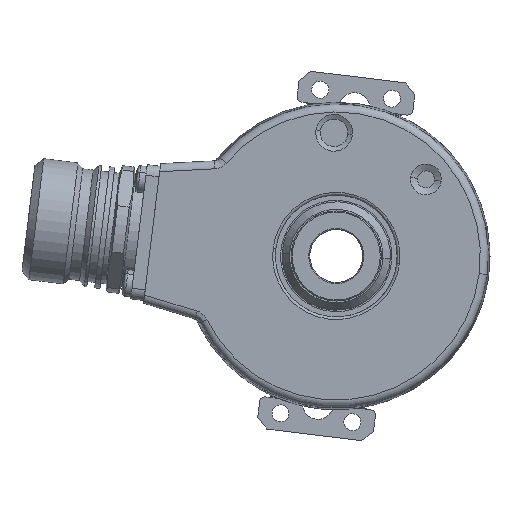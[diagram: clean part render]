
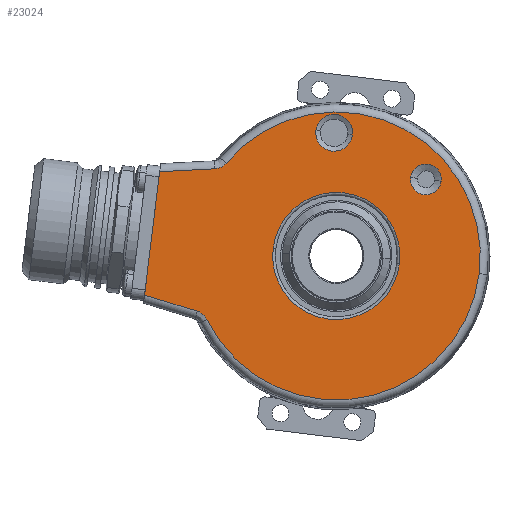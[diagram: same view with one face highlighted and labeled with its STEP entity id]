
A CAD part, left-side view. The second image highlights one B-rep face of the part: STEP entity #23024.
In plain terms, the highlighted planar face has unit normal (-1, 0, 0).
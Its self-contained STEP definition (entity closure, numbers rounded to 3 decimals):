
#1481 = CARTESIAN_POINT ( 'NONE',  ( -19., 11.911, 1.462 ) ) ;
#1482 = CARTESIAN_POINT ( 'NONE',  ( -19., -11.911, -1.462 ) ) ;
#1483 = DIRECTION ( 'NONE',  ( 0., -0.993, -0.122 ) ) ;
#1484 = DIRECTION ( 'NONE',  ( 1., 0., 0. ) ) ;
#1485 = CARTESIAN_POINT ( 'NONE',  ( -19., 0., 0. ) ) ;
#1486 = AXIS2_PLACEMENT_3D ( 'NONE', #1485, #1484, #1483 ) ;
#1487 = CIRCLE ( 'NONE', #1486, 12. ) ;
#1764 = CARTESIAN_POINT ( 'NONE',  ( -19., -26.97, -3.312 ) ) ;
#1765 = CARTESIAN_POINT ( 'NONE',  ( -19., 20.777, 17.512 ) ) ;
#2113 = CARTESIAN_POINT ( 'NONE',  ( -19., 33.31, 15.905 ) ) ;
#3572 = DIRECTION ( 'NONE',  ( 0., -0.993, -0.122 ) ) ;
#3573 = DIRECTION ( 'NONE',  ( 1., 0., 0. ) ) ;
#3574 = CARTESIAN_POINT ( 'NONE',  ( -19., 0., 0. ) ) ;
#3575 = AXIS2_PLACEMENT_3D ( 'NONE', #3574, #3573, #3572 ) ;
#3576 = CIRCLE ( 'NONE', #3575, 12. ) ;
#3616 = B_SPLINE_CURVE_WITH_KNOTS ( 'NONE', 3,
 ( #3676, #3674, #3672, #3671, #3670, #3669, #3668, #3667, #3666, #3665 ),
 .UNSPECIFIED., .F., .F.,
 ( 4, 2, 2, 2, 4 ),
 ( 0., 0.001, 0.001, 0.002, 0.002 ),
 .UNSPECIFIED. ) ;
#3665 = CARTESIAN_POINT ( 'NONE',  ( -19., 20.777, 17.512 ) ) ;
#3666 = CARTESIAN_POINT ( 'NONE',  ( -19., 20.91, 17.355 ) ) ;
#3667 = CARTESIAN_POINT ( 'NONE',  ( -19., 21.056, 17.213 ) ) ;
#3668 = CARTESIAN_POINT ( 'NONE',  ( -19., 21.376, 16.962 ) ) ;
#3669 = CARTESIAN_POINT ( 'NONE',  ( -19., 21.552, 16.851 ) ) ;
#3670 = CARTESIAN_POINT ( 'NONE',  ( -19., 21.917, 16.669 ) ) ;
#3671 = CARTESIAN_POINT ( 'NONE',  ( -19., 22.108, 16.597 ) ) ;
#3672 = CARTESIAN_POINT ( 'NONE',  ( -19., 22.503, 16.493 ) ) ;
#3674 = CARTESIAN_POINT ( 'NONE',  ( -19., 22.708, 16.461 ) ) ;
#3676 = CARTESIAN_POINT ( 'NONE',  ( -19., 22.914, 16.45 ) ) ;
#4017 = CARTESIAN_POINT ( 'NONE',  ( -19., 24.396, -11.966 ) ) ;
#5166 = DIRECTION ( 'NONE',  ( 0., -0.993, -0.122 ) ) ;
#5167 = DIRECTION ( 'NONE',  ( 1., 0., 0. ) ) ;
#5168 = CARTESIAN_POINT ( 'NONE',  ( -19., -16.919, 14.45 ) ) ;
#5169 = AXIS2_PLACEMENT_3D ( 'NONE', #5168, #5167, #5166 ) ;
#5173 = CIRCLE ( 'NONE', #5169, 2.899 ) ;
#5277 = EDGE_CURVE ( 'NONE', #5279, #24778, #25936, .T. ) ;
#5279 = VERTEX_POINT ( 'NONE', #25932 ) ;
#5473 = EDGE_CURVE ( 'NONE', #5279, #5474, #26377, .T. ) ;
#5474 = VERTEX_POINT ( 'NONE', #26373 ) ;
#6341 = DIRECTION ( 'NONE',  ( 0., -0.993, -0.122 ) ) ;
#6342 = DIRECTION ( 'NONE',  ( 1., 0., 0. ) ) ;
#6343 = CARTESIAN_POINT ( 'NONE',  ( -19., 0.406, 23.246 ) ) ;
#6344 = AXIS2_PLACEMENT_3D ( 'NONE', #6343, #6342, #6341 ) ;
#6345 = CIRCLE ( 'NONE', #6344, 3.466 ) ;
#8211 = DIRECTION ( 'NONE',  ( 0., 0.999, -0.052 ) ) ;
#8212 = VECTOR ( 'NONE', #8211, 1000. ) ;
#8213 = CARTESIAN_POINT ( 'NONE',  ( -19., 33.046, 15.919 ) ) ;
#8214 = LINE ( 'NONE', #8213, #8212 ) ;
#8312 = CARTESIAN_POINT ( 'NONE',  ( -19., 22.914, 16.45 ) ) ;
#10447 = CARTESIAN_POINT ( 'NONE',  ( -19., -3.034, 22.824 ) ) ;
#10452 = DIRECTION ( 'NONE',  ( 0., -0.993, -0.122 ) ) ;
#10455 = DIRECTION ( 'NONE',  ( -1., 0., 0. ) ) ;
#10457 = CARTESIAN_POINT ( 'NONE',  ( -19., 0., 0. ) ) ;
#10459 = AXIS2_PLACEMENT_3D ( 'NONE', #10457, #10455, #10452 ) ;
#10460 = CIRCLE ( 'NONE', #10459, 27.173 ) ;
#10592 = CARTESIAN_POINT ( 'NONE',  ( -19., 3.846, 23.669 ) ) ;
#10593 = DIRECTION ( 'NONE',  ( 0., -0.993, -0.122 ) ) ;
#10594 = DIRECTION ( 'NONE',  ( 1., 0., 0. ) ) ;
#10595 = CARTESIAN_POINT ( 'NONE',  ( -19., 0.406, 23.246 ) ) ;
#10596 = AXIS2_PLACEMENT_3D ( 'NONE', #10595, #10594, #10593 ) ;
#10597 = CIRCLE ( 'NONE', #10596, 3.466 ) ;
#11568 = CARTESIAN_POINT ( 'NONE',  ( -19., -16.919, 14.45 ) ) ;
#11570 = CARTESIAN_POINT ( 'NONE',  ( -19., -19.796, 14.097 ) ) ;
#11617 = DIRECTION ( 'NONE',  ( 0., -0.993, -0.122 ) ) ;
#11618 = DIRECTION ( 'NONE',  ( 1., 0., 0. ) ) ;
#11619 = AXIS2_PLACEMENT_3D ( 'NONE', #11568, #11618, #11617 ) ;
#11620 = CIRCLE ( 'NONE', #11619, 2.899 ) ;
#11714 = CARTESIAN_POINT ( 'NONE',  ( -19., -14.042, 14.804 ) ) ;
#18480 = FACE_OUTER_BOUND ( 'NONE', #19930, .T. ) ;
#18481 = FACE_BOUND ( 'NONE', #23146, .T. ) ;
#18482 = FACE_BOUND ( 'NONE', #23446, .T. ) ;
#18483 = FACE_BOUND ( 'NONE', #23148, .T. ) ;
#18517 = DIRECTION ( 'NONE',  ( 0., -0.993, -0.122 ) ) ;
#18518 = DIRECTION ( 'NONE',  ( 1., 0., 0. ) ) ;
#18519 = CARTESIAN_POINT ( 'NONE',  ( -19., 0., 0. ) ) ;
#18520 = AXIS2_PLACEMENT_3D ( 'NONE', #18519, #18518, #18517 ) ;
#18521 = PLANE ( 'NONE',  #18520 ) ;
#19774 = ORIENTED_EDGE ( 'NONE', *, *, #19897, .T. ) ;
#19775 = ORIENTED_EDGE ( 'NONE', *, *, #19898, .F. ) ;
#19781 = ORIENTED_EDGE ( 'NONE', *, *, #5277, .F. ) ;
#19790 = EDGE_CURVE ( 'NONE', #24488, #24486, #3576, .T. ) ;
#19808 = EDGE_CURVE ( 'NONE', #24710, #24573, #3616, .T. ) ;
#19814 = ORIENTED_EDGE ( 'NONE', *, *, #5473, .T. ) ;
#19815 = ORIENTED_EDGE ( 'NONE', *, *, #24685, .T. ) ;
#19891 = VERTEX_POINT ( 'NONE', #4017 ) ;
#19897 = EDGE_CURVE ( 'NONE', #19891, #24574, #28222, .T. ) ;
#19898 = EDGE_CURVE ( 'NONE', #19891, #5474, #28217, .T. ) ;
#19929 = ORIENTED_EDGE ( 'NONE', *, *, #19808, .F. ) ;
#19930 = EDGE_LOOP ( 'NONE', ( #19929, #19815, #19781, #19814, #19775, #19774, #22912 ) ) ;
#19931 = ORIENTED_EDGE ( 'NONE', *, *, #19790, .T. ) ;
#22912 = ORIENTED_EDGE ( 'NONE', *, *, #24607, .T. ) ;
#23009 = ORIENTED_EDGE ( 'NONE', *, *, #24163, .T. ) ;
#23024 = ADVANCED_FACE ( 'NONE', ( #18483, #18482, #18481, #18480 ), #18521, .F. ) ;
#23092 = ORIENTED_EDGE ( 'NONE', *, *, #23447, .T. ) ;
#23114 = EDGE_CURVE ( 'NONE', #24609, #24638, #6345, .T. ) ;
#23146 = EDGE_LOOP ( 'NONE', ( #23231, #19931 ) ) ;
#23148 = EDGE_LOOP ( 'NONE', ( #23009, #23092 ) ) ;
#23231 = ORIENTED_EDGE ( 'NONE', *, *, #24485, .T. ) ;
#23420 = ORIENTED_EDGE ( 'NONE', *, *, #23114, .T. ) ;
#23436 = ORIENTED_EDGE ( 'NONE', *, *, #24637, .T. ) ;
#23446 = EDGE_LOOP ( 'NONE', ( #23436, #23420 ) ) ;
#23447 = EDGE_CURVE ( 'NONE', #24153, #24212, #5173, .T. ) ;
#24153 = VERTEX_POINT ( 'NONE', #11570 ) ;
#24163 = EDGE_CURVE ( 'NONE', #24212, #24153, #11620, .T. ) ;
#24212 = VERTEX_POINT ( 'NONE', #11714 ) ;
#24485 = EDGE_CURVE ( 'NONE', #24486, #24488, #1487, .T. ) ;
#24486 = VERTEX_POINT ( 'NONE', #1482 ) ;
#24488 = VERTEX_POINT ( 'NONE', #1481 ) ;
#24573 = VERTEX_POINT ( 'NONE', #1765 ) ;
#24574 = VERTEX_POINT ( 'NONE', #1764 ) ;
#24607 = EDGE_CURVE ( 'NONE', #24574, #24573, #10460, .T. ) ;
#24609 = VERTEX_POINT ( 'NONE', #10447 ) ;
#24637 = EDGE_CURVE ( 'NONE', #24638, #24609, #10597, .T. ) ;
#24638 = VERTEX_POINT ( 'NONE', #10592 ) ;
#24685 = EDGE_CURVE ( 'NONE', #24710, #24778, #8214, .T. ) ;
#24710 = VERTEX_POINT ( 'NONE', #8312 ) ;
#24778 = VERTEX_POINT ( 'NONE', #2113 ) ;
#25932 = CARTESIAN_POINT ( 'NONE',  ( -19., 36.168, -7.374 ) ) ;
#25933 = DIRECTION ( 'NONE',  ( 0., -0.122, 0.993 ) ) ;
#25934 = VECTOR ( 'NONE', #25933, 1000. ) ;
#25935 = CARTESIAN_POINT ( 'NONE',  ( -19., 36.354, -8.886 ) ) ;
#25936 = LINE ( 'NONE', #25935, #25934 ) ;
#26373 = CARTESIAN_POINT ( 'NONE',  ( -19., 26.213, -10.418 ) ) ;
#26374 = DIRECTION ( 'NONE',  ( 0., -0.956, -0.292 ) ) ;
#26375 = VECTOR ( 'NONE', #26374, 1000. ) ;
#26376 = CARTESIAN_POINT ( 'NONE',  ( -19., 25.556, -10.618 ) ) ;
#26377 = LINE ( 'NONE', #26376, #26375 ) ;
#28202 = CARTESIAN_POINT ( 'NONE',  ( -19., 26.213, -10.418 ) ) ;
#28203 = CARTESIAN_POINT ( 'NONE',  ( -19., 26.016, -10.478 ) ) ;
#28204 = CARTESIAN_POINT ( 'NONE',  ( -19., 25.828, -10.557 ) ) ;
#28205 = CARTESIAN_POINT ( 'NONE',  ( -19., 25.471, -10.753 ) ) ;
#28206 = CARTESIAN_POINT ( 'NONE',  ( -19., 25.3, -10.87 ) ) ;
#28207 = CARTESIAN_POINT ( 'NONE',  ( -19., 24.989, -11.135 ) ) ;
#28208 = CARTESIAN_POINT ( 'NONE',  ( -19., 24.848, -11.282 ) ) ;
#28209 = CARTESIAN_POINT ( 'NONE',  ( -19., 24.597, -11.605 ) ) ;
#28210 = CARTESIAN_POINT ( 'NONE',  ( -19., 24.487, -11.781 ) ) ;
#28211 = CARTESIAN_POINT ( 'NONE',  ( -19., 24.396, -11.966 ) ) ;
#28217 = B_SPLINE_CURVE_WITH_KNOTS ( 'NONE', 3,
 ( #28211, #28210, #28209, #28208, #28207, #28206, #28205, #28204, #28203, #28202 ),
 .UNSPECIFIED., .F., .F.,
 ( 4, 2, 2, 2, 4 ),
 ( 0., 0.001, 0.001, 0.002, 0.002 ),
 .UNSPECIFIED. ) ;
#28218 = DIRECTION ( 'NONE',  ( 0., -0.993, -0.122 ) ) ;
#28219 = DIRECTION ( 'NONE',  ( -1., 0., 0. ) ) ;
#28220 = CARTESIAN_POINT ( 'NONE',  ( -19., 0., 0. ) ) ;
#28221 = AXIS2_PLACEMENT_3D ( 'NONE', #28220, #28219, #28218 ) ;
#28222 = CIRCLE ( 'NONE', #28221, 27.173 ) ;
